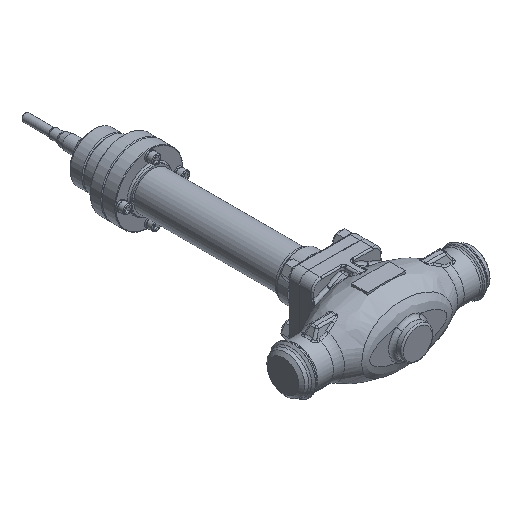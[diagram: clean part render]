
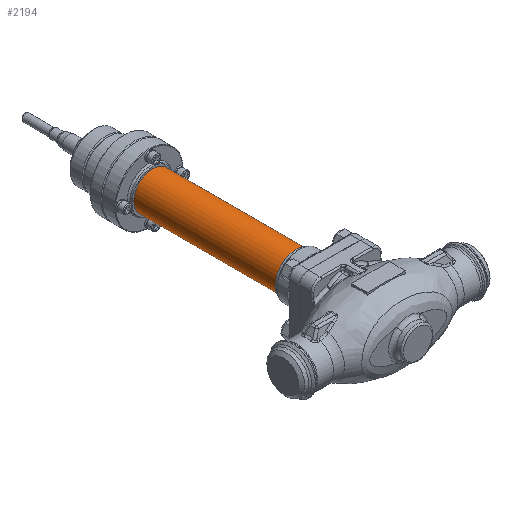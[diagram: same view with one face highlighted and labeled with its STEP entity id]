
A CAD part, isometric view. The second image highlights one B-rep face of the part: STEP entity #2194.
In plain terms, the highlighted cylindrical face has radius 25 mm (diameter 50 mm), a full revolution.
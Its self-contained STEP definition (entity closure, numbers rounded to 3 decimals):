
#1253=CYLINDRICAL_SURFACE('',#8594,25.);
#2194=ADVANCED_FACE('',(#2666,#2667),#1253,.T.);
#2666=FACE_BOUND('',#3248,.T.);
#2667=FACE_BOUND('',#3249,.T.);
#3248=EDGE_LOOP('',(#4874));
#3249=EDGE_LOOP('',(#4875));
#4874=ORIENTED_EDGE('',*,*,#7119,.F.);
#4875=ORIENTED_EDGE('',*,*,#7056,.T.);
#6126=VERTEX_POINT('',#15219);
#6173=VERTEX_POINT('',#15416);
#7056=EDGE_CURVE('',#6126,#6126,#7805,.T.);
#7119=EDGE_CURVE('',#6173,#6173,#7845,.T.);
#7805=CIRCLE('',#8528,25.);
#7845=CIRCLE('',#8593,25.);
#8528=AXIS2_PLACEMENT_3D('',#15218,#10174,#10175);
#8593=AXIS2_PLACEMENT_3D('',#15415,#10319,#10320);
#8594=AXIS2_PLACEMENT_3D('',#15417,#10321,#10322);
#10174=DIRECTION('',(0.,-1.,0.));
#10175=DIRECTION('',(1.,0.,0.));
#10319=DIRECTION('',(0.,-1.,0.));
#10320=DIRECTION('',(1.,0.,0.));
#10321=DIRECTION('',(0.,1.,0.));
#10322=DIRECTION('',(1.,0.,0.));
#15218=CARTESIAN_POINT('',(0.,302.,0.));
#15219=CARTESIAN_POINT('',(25.,302.,0.));
#15415=CARTESIAN_POINT('',(0.,104.,0.));
#15416=CARTESIAN_POINT('',(25.,104.,0.));
#15417=CARTESIAN_POINT('',(0.,96.,0.));
